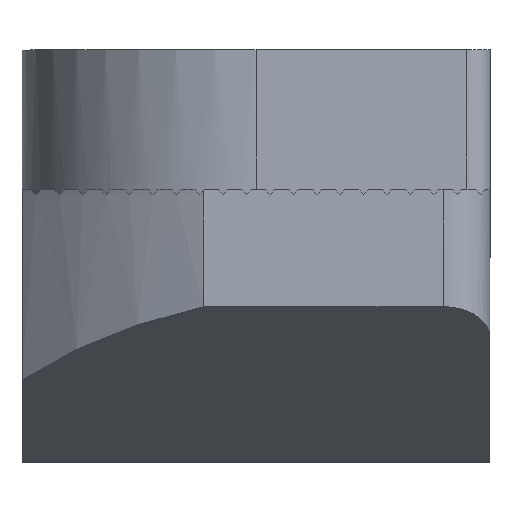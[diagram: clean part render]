
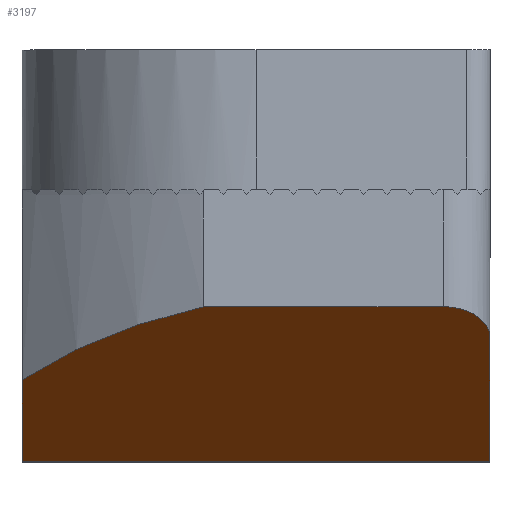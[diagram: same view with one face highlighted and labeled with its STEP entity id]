
A CAD part, top view. The second image highlights one B-rep face of the part: STEP entity #3197.
In plain terms, the highlighted planar face has unit normal (0, -0.835, 0.551).
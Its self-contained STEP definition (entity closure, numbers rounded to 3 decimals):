
#28 = EDGE_CURVE ( 'NONE', #2827, #1520, #4758, .T. ) ;
#48 = DIRECTION ( 'NONE',  ( 0., 0.835, -0.551 ) ) ;
#120 = CARTESIAN_POINT ( 'NONE',  ( 5., -5.8, 4.5 ) ) ;
#166 = VERTEX_POINT ( 'NONE', #2104 ) ;
#175 = DIRECTION ( 'NONE',  ( 1., 0., 0. ) ) ;
#207 = EDGE_CURVE ( 'NONE', #1094, #420, #4260, .T. ) ;
#308 = ORIENTED_EDGE ( 'NONE', *, *, #3071, .T. ) ;
#325 = CARTESIAN_POINT ( 'NONE',  ( 5., -2.773, 9.086 ) ) ;
#347 = CARTESIAN_POINT ( 'NONE',  ( -1.122, -2.5, 9.5 ) ) ;
#366 = AXIS2_PLACEMENT_3D ( 'NONE', #1682, #48, #2845 ) ;
#420 = VERTEX_POINT ( 'NONE', #3072 ) ;
#491 = FACE_OUTER_BOUND ( 'NONE', #2258, .T. ) ;
#705 = CARTESIAN_POINT ( 'NONE',  ( -5., -2.5, 9.5 ) ) ;
#732 = CARTESIAN_POINT ( 'NONE',  ( 4.586, -2.5, 9.5 ) ) ;
#767 = CARTESIAN_POINT ( 'NONE',  ( -1.122, -2.5, 9.5 ) ) ;
#824 = VECTOR ( 'NONE', #4219, 1000. ) ;
#828 = LINE ( 'NONE', #4940, #824 ) ;
#1031 =( BOUNDED_CURVE ( )  B_SPLINE_CURVE ( 3, ( #2711, #325, #732, #3455 ),
 .UNSPECIFIED., .F., .F. ) 
 B_SPLINE_CURVE_WITH_KNOTS ( ( 4, 4 ),
 ( 4.712, 6.283 ),
 .UNSPECIFIED. ) 
 CURVE ( )  GEOMETRIC_REPRESENTATION_ITEM ( )  RATIONAL_B_SPLINE_CURVE ( ( 1., 0.805, 0.805, 1. ) ) 
 REPRESENTATION_ITEM ( '' )  );
#1089 = DIRECTION ( 'NONE',  ( 0., 0.551, 0.835 ) ) ;
#1094 = VERTEX_POINT ( 'NONE', #767 ) ;
#1262 = PLANE ( 'NONE',  #366 ) ;
#1367 =( BOUNDED_CURVE ( )  B_SPLINE_CURVE ( 3, ( #2337, #1944, #2740, #347 ),
 .UNSPECIFIED., .F., .F. ) 
 B_SPLINE_CURVE_WITH_KNOTS ( ( 4, 4 ),
 ( 5.508, 5.966 ),
 .UNSPECIFIED. ) 
 CURVE ( )  GEOMETRIC_REPRESENTATION_ITEM ( )  RATIONAL_B_SPLINE_CURVE ( ( 1., 0.983, 0.983, 1. ) ) 
 REPRESENTATION_ITEM ( '' )  );
#1520 = VERTEX_POINT ( 'NONE', #120 ) ;
#1682 = CARTESIAN_POINT ( 'NONE',  ( -5., -2.5, 9.5 ) ) ;
#1846 = ORIENTED_EDGE ( 'NONE', *, *, #207, .F. ) ;
#1944 = CARTESIAN_POINT ( 'NONE',  ( -3.901, -3.345, 8.219 ) ) ;
#1988 = VECTOR ( 'NONE', #1089, 1000. ) ;
#2104 = CARTESIAN_POINT ( 'NONE',  ( 5., -3.16, 8.5 ) ) ;
#2111 = LINE ( 'NONE', #705, #1988 ) ;
#2114 = ORIENTED_EDGE ( 'NONE', *, *, #3865, .F. ) ;
#2258 = EDGE_LOOP ( 'NONE', ( #308, #2360, #1846, #2114, #4947, #2874 ) ) ;
#2337 = CARTESIAN_POINT ( 'NONE',  ( -5., -4.057, 7.141 ) ) ;
#2360 = ORIENTED_EDGE ( 'NONE', *, *, #2983, .T. ) ;
#2711 = CARTESIAN_POINT ( 'NONE',  ( 5., -3.16, 8.5 ) ) ;
#2740 = CARTESIAN_POINT ( 'NONE',  ( -2.585, -2.817, 9.019 ) ) ;
#2827 = VERTEX_POINT ( 'NONE', #3519 ) ;
#2845 = DIRECTION ( 'NONE',  ( 0., 0.551, 0.835 ) ) ;
#2874 = ORIENTED_EDGE ( 'NONE', *, *, #28, .T. ) ;
#2983 = EDGE_CURVE ( 'NONE', #166, #420, #1031, .T. ) ;
#3025 = VERTEX_POINT ( 'NONE', #3827 ) ;
#3071 = EDGE_CURVE ( 'NONE', #1520, #166, #828, .T. ) ;
#3072 = CARTESIAN_POINT ( 'NONE',  ( 4., -2.5, 9.5 ) ) ;
#3197 = ADVANCED_FACE ( 'NONE', ( #491 ), #1262, .F. ) ;
#3455 = CARTESIAN_POINT ( 'NONE',  ( 4., -2.5, 9.5 ) ) ;
#3519 = CARTESIAN_POINT ( 'NONE',  ( -5., -5.8, 4.5 ) ) ;
#3666 = CARTESIAN_POINT ( 'NONE',  ( -5., -2.5, 9.5 ) ) ;
#3807 = EDGE_CURVE ( 'NONE', #2827, #3025, #2111, .T. ) ;
#3827 = CARTESIAN_POINT ( 'NONE',  ( -5., -4.057, 7.141 ) ) ;
#3865 = EDGE_CURVE ( 'NONE', #3025, #1094, #1367, .T. ) ;
#4193 = VECTOR ( 'NONE', #175, 1000. ) ;
#4219 = DIRECTION ( 'NONE',  ( 0., 0.551, 0.835 ) ) ;
#4260 = LINE ( 'NONE', #3666, #4193 ) ;
#4359 = CARTESIAN_POINT ( 'NONE',  ( -5., -5.8, 4.5 ) ) ;
#4709 = DIRECTION ( 'NONE',  ( 1., 0., 0. ) ) ;
#4758 = LINE ( 'NONE', #4359, #4816 ) ;
#4816 = VECTOR ( 'NONE', #4709, 1000. ) ;
#4940 = CARTESIAN_POINT ( 'NONE',  ( 5., -2.5, 9.5 ) ) ;
#4947 = ORIENTED_EDGE ( 'NONE', *, *, #3807, .F. ) ;
